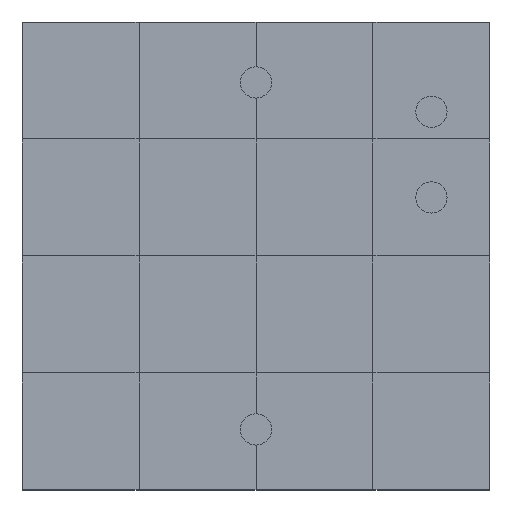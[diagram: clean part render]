
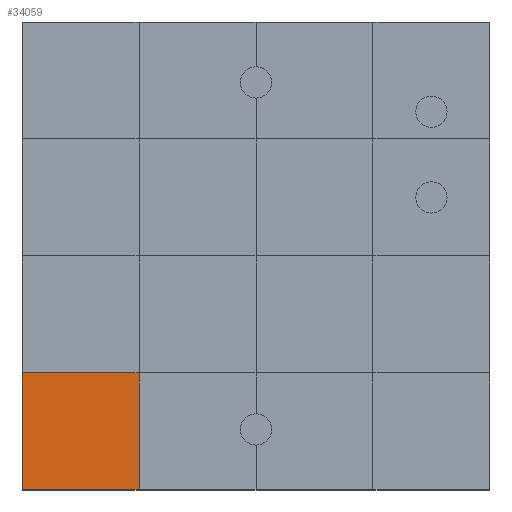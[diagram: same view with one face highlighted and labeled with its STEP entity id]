
A CAD part, top view. The second image highlights one B-rep face of the part: STEP entity #34059.
In plain terms, the highlighted planar face has unit normal (0, 0, 1).
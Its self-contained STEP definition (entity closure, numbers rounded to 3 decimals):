
#33870 = VERTEX_POINT('',#33871);
#33871 = CARTESIAN_POINT('',(0.,0.,1.5));
#33878 = PLANE('',#33879);
#33879 = AXIS2_PLACEMENT_3D('',#33880,#33881,#33882);
#33880 = CARTESIAN_POINT('',(0.,0.,0.));
#33881 = DIRECTION('',(1.,0.,-0.));
#33882 = DIRECTION('',(0.,0.,1.));
#33890 = PLANE('',#33891);
#33891 = AXIS2_PLACEMENT_3D('',#33892,#33893,#33894);
#33892 = CARTESIAN_POINT('',(0.,0.,0.));
#33893 = DIRECTION('',(-0.,1.,0.));
#33894 = DIRECTION('',(0.,0.,1.));
#33931 = VERTEX_POINT('',#33932);
#33932 = CARTESIAN_POINT('',(0.,3.,1.5));
#33958 = EDGE_CURVE('',#33870,#33931,#33959,.T.);
#33959 = SURFACE_CURVE('',#33960,(#33964,#33971),.PCURVE_S1.);
#33960 = LINE('',#33961,#33962);
#33961 = CARTESIAN_POINT('',(0.,0.,1.5));
#33962 = VECTOR('',#33963,1.);
#33963 = DIRECTION('',(-0.,1.,0.));
#33964 = PCURVE('',#33878,#33965);
#33965 = DEFINITIONAL_REPRESENTATION('',(#33966),#33970);
#33966 = LINE('',#33967,#33968);
#33967 = CARTESIAN_POINT('',(1.5,0.));
#33968 = VECTOR('',#33969,1.);
#33969 = DIRECTION('',(0.,-1.));
#33970 = ( GEOMETRIC_REPRESENTATION_CONTEXT(2) 
PARAMETRIC_REPRESENTATION_CONTEXT() REPRESENTATION_CONTEXT('2D SPACE',''
  ) );
#33971 = PCURVE('',#33972,#33977);
#33972 = PLANE('',#33973);
#33973 = AXIS2_PLACEMENT_3D('',#33974,#33975,#33976);
#33974 = CARTESIAN_POINT('',(0.,0.,1.5));
#33975 = DIRECTION('',(0.,0.,1.));
#33976 = DIRECTION('',(1.,0.,-0.));
#33977 = DEFINITIONAL_REPRESENTATION('',(#33978),#33982);
#33978 = LINE('',#33979,#33980);
#33979 = CARTESIAN_POINT('',(0.,0.));
#33980 = VECTOR('',#33981,1.);
#33981 = DIRECTION('',(0.,1.));
#33982 = ( GEOMETRIC_REPRESENTATION_CONTEXT(2) 
PARAMETRIC_REPRESENTATION_CONTEXT() REPRESENTATION_CONTEXT('2D SPACE',''
  ) );
#34011 = EDGE_CURVE('',#33870,#34012,#34014,.T.);
#34012 = VERTEX_POINT('',#34013);
#34013 = CARTESIAN_POINT('',(3.,0.,1.5));
#34014 = SURFACE_CURVE('',#34015,(#34019,#34026),.PCURVE_S1.);
#34015 = LINE('',#34016,#34017);
#34016 = CARTESIAN_POINT('',(0.,0.,1.5));
#34017 = VECTOR('',#34018,1.);
#34018 = DIRECTION('',(1.,0.,-0.));
#34019 = PCURVE('',#33890,#34020);
#34020 = DEFINITIONAL_REPRESENTATION('',(#34021),#34025);
#34021 = LINE('',#34022,#34023);
#34022 = CARTESIAN_POINT('',(1.5,0.));
#34023 = VECTOR('',#34024,1.);
#34024 = DIRECTION('',(0.,1.));
#34025 = ( GEOMETRIC_REPRESENTATION_CONTEXT(2) 
PARAMETRIC_REPRESENTATION_CONTEXT() REPRESENTATION_CONTEXT('2D SPACE',''
  ) );
#34026 = PCURVE('',#33972,#34027);
#34027 = DEFINITIONAL_REPRESENTATION('',(#34028),#34032);
#34028 = LINE('',#34029,#34030);
#34029 = CARTESIAN_POINT('',(0.,0.));
#34030 = VECTOR('',#34031,1.);
#34031 = DIRECTION('',(1.,0.));
#34032 = ( GEOMETRIC_REPRESENTATION_CONTEXT(2) 
PARAMETRIC_REPRESENTATION_CONTEXT() REPRESENTATION_CONTEXT('2D SPACE',''
  ) );
#34059 = ADVANCED_FACE('',(#34060),#33972,.T.);
#34060 = FACE_BOUND('',#34061,.T.);
#34061 = EDGE_LOOP('',(#34062,#34063,#34064,#34092));
#34062 = ORIENTED_EDGE('',*,*,#33958,.F.);
#34063 = ORIENTED_EDGE('',*,*,#34011,.T.);
#34064 = ORIENTED_EDGE('',*,*,#34065,.T.);
#34065 = EDGE_CURVE('',#34012,#34066,#34068,.T.);
#34066 = VERTEX_POINT('',#34067);
#34067 = CARTESIAN_POINT('',(3.,3.,1.5));
#34068 = SURFACE_CURVE('',#34069,(#34073,#34080),.PCURVE_S1.);
#34069 = LINE('',#34070,#34071);
#34070 = CARTESIAN_POINT('',(3.,0.,1.5));
#34071 = VECTOR('',#34072,1.);
#34072 = DIRECTION('',(-0.,1.,0.));
#34073 = PCURVE('',#33972,#34074);
#34074 = DEFINITIONAL_REPRESENTATION('',(#34075),#34079);
#34075 = LINE('',#34076,#34077);
#34076 = CARTESIAN_POINT('',(3.,0.));
#34077 = VECTOR('',#34078,1.);
#34078 = DIRECTION('',(0.,1.));
#34079 = ( GEOMETRIC_REPRESENTATION_CONTEXT(2) 
PARAMETRIC_REPRESENTATION_CONTEXT() REPRESENTATION_CONTEXT('2D SPACE',''
  ) );
#34080 = PCURVE('',#34081,#34086);
#34081 = PLANE('',#34082);
#34082 = AXIS2_PLACEMENT_3D('',#34083,#34084,#34085);
#34083 = CARTESIAN_POINT('',(3.,0.,1.5));
#34084 = DIRECTION('',(0.,0.,1.));
#34085 = DIRECTION('',(1.,0.,-0.));
#34086 = DEFINITIONAL_REPRESENTATION('',(#34087),#34091);
#34087 = LINE('',#34088,#34089);
#34088 = CARTESIAN_POINT('',(0.,0.));
#34089 = VECTOR('',#34090,1.);
#34090 = DIRECTION('',(0.,1.));
#34091 = ( GEOMETRIC_REPRESENTATION_CONTEXT(2) 
PARAMETRIC_REPRESENTATION_CONTEXT() REPRESENTATION_CONTEXT('2D SPACE',''
  ) );
#34092 = ORIENTED_EDGE('',*,*,#34093,.F.);
#34093 = EDGE_CURVE('',#33931,#34066,#34094,.T.);
#34094 = SURFACE_CURVE('',#34095,(#34099,#34106),.PCURVE_S1.);
#34095 = LINE('',#34096,#34097);
#34096 = CARTESIAN_POINT('',(0.,3.,1.5));
#34097 = VECTOR('',#34098,1.);
#34098 = DIRECTION('',(1.,0.,-0.));
#34099 = PCURVE('',#33972,#34100);
#34100 = DEFINITIONAL_REPRESENTATION('',(#34101),#34105);
#34101 = LINE('',#34102,#34103);
#34102 = CARTESIAN_POINT('',(0.,3.));
#34103 = VECTOR('',#34104,1.);
#34104 = DIRECTION('',(1.,0.));
#34105 = ( GEOMETRIC_REPRESENTATION_CONTEXT(2) 
PARAMETRIC_REPRESENTATION_CONTEXT() REPRESENTATION_CONTEXT('2D SPACE',''
  ) );
#34106 = PCURVE('',#34107,#34112);
#34107 = PLANE('',#34108);
#34108 = AXIS2_PLACEMENT_3D('',#34109,#34110,#34111);
#34109 = CARTESIAN_POINT('',(0.,3.,1.5));
#34110 = DIRECTION('',(0.,0.,1.));
#34111 = DIRECTION('',(1.,0.,-0.));
#34112 = DEFINITIONAL_REPRESENTATION('',(#34113),#34117);
#34113 = LINE('',#34114,#34115);
#34114 = CARTESIAN_POINT('',(0.,0.));
#34115 = VECTOR('',#34116,1.);
#34116 = DIRECTION('',(1.,0.));
#34117 = ( GEOMETRIC_REPRESENTATION_CONTEXT(2) 
PARAMETRIC_REPRESENTATION_CONTEXT() REPRESENTATION_CONTEXT('2D SPACE',''
  ) );
